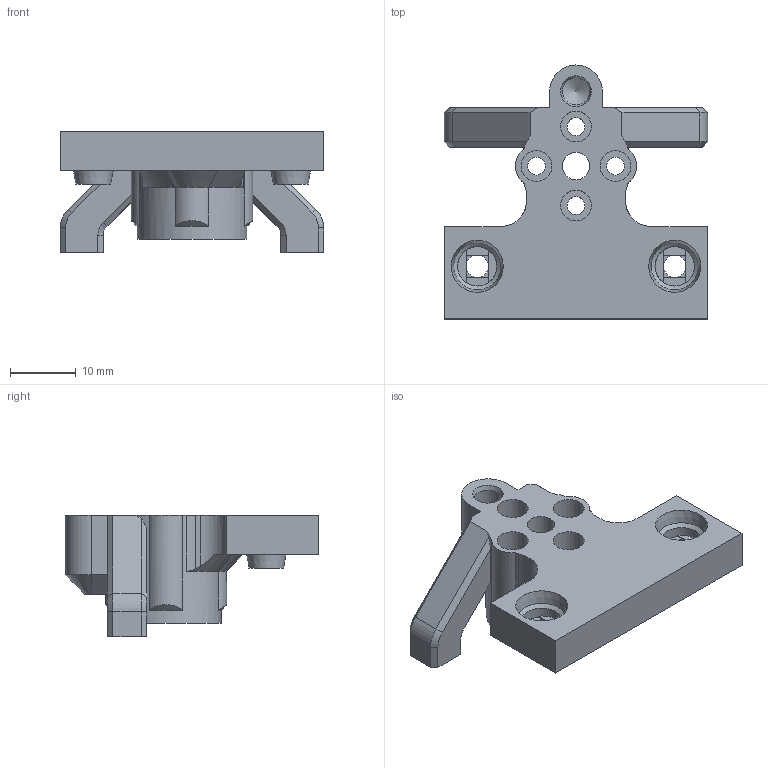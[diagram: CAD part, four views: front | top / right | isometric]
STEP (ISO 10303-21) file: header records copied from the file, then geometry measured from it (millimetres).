
FILE_DESCRIPTION(/* description */ (''),/* implementation_level */ '2;1');
FILE_NAME(/* name */ 'HMG7-Slice-Copperhead-Mount.step',/* time_stamp */ '2022-11-01T21:31:26-07:00',/* author */ (''),/* organization */ (''),/* preprocessor_version */ 'ST-DEVELOPER v19.2',/* originating_system */ 'Autodesk Translation Framework v11.17.0.187',/* authorisation */ '');
FILE_SCHEMA (('AUTOMOTIVE_DESIGN { 1 0 10303 214 3 1 1 }'));
Length unit declared in the file: millimetre
Products named in the file (3): GEN_7_1.5; Copperhead; Copperhead_Interface_Plate
Assembly tree (2 placements, depth 3):
  GEN_7_1.5
    Copperhead
      Copperhead_Interface_Plate
Bounding box: 40 x 38.58 x 18.43 mm (x, y, z)
Volume: 7755.4 mm3; surface area: 5427.3 mm2
Topology: 1 solids, 1 shells, 135 faces, 342 edges, 215 vertices
Faces by surface type: plane 79, cylinder 30, cone 26
Full cylindrical faces by diameter (mm): 2.7 x4, 3.4 x2, 4.15 x1, 4.2 x1, 4.7 x4, 6 x2, 16.7 x1
Entity records: 4226 total; most frequent: CARTESIAN_POINT 808, DIRECTION 721, ORIENTED_EDGE 682, EDGE_CURVE 341, AXIS2_PLACEMENT_3D 254, VERTEX_POINT 215, LINE 213, VECTOR 213
